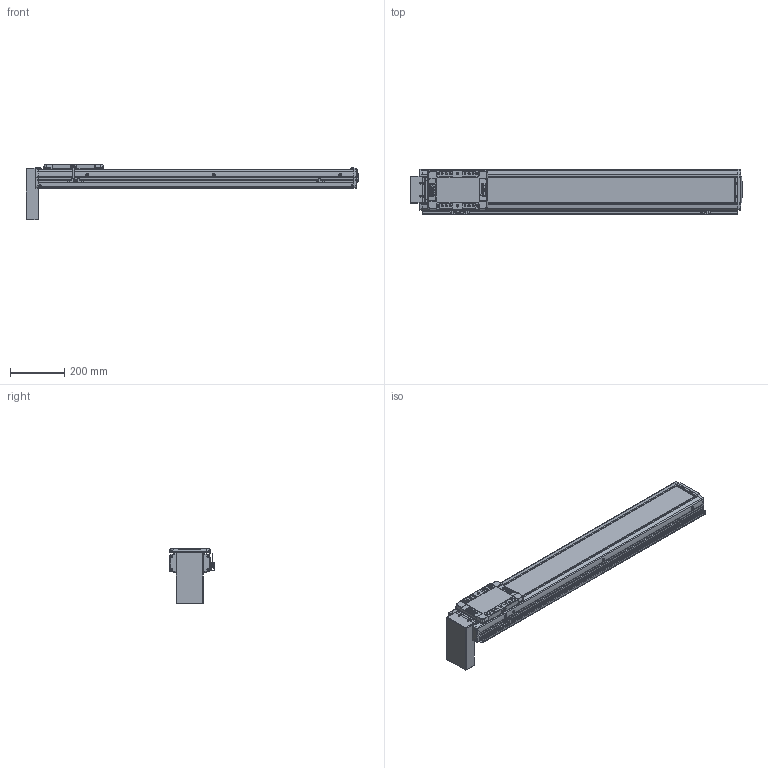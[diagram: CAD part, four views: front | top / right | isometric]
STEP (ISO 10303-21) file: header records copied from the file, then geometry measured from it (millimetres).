
FILE_DESCRIPTION(('STEP AP214'),'1');
FILE_NAME('Z:/Web/3D/SAN150/2013.04 (STP.)/SAN150ㅁㅁ-900PB+3SR.stp','2013-05-07T10:50:12',(' '),(' '),'Spatial InterOp 3D',' ',' ');
FILE_SCHEMA(('automotive_design'));
Length unit declared in the file: millimetre
Products named in the file (60): SLBL-SAN150; SLCV-SAN150; FHCS M4.0 x 8.0; BHCS M4.0 x 10.0; SFX-SAN150; RRCV-SAN150; FRBL-SAN150; Spacer; RN15; FRCV-SAN150; Screw 20; BASE-SAN150-000L ; SUS COVER; 스크루 : Round - M5.0 x 6.0; PB; 스크루 : Round - M3.0 x 6.0; M3.0 x 6.0; SRL-16x17-360L; SGD-SAN150; EE-SX674; SBK-SX674-352
Bounding box: 1220 x 166 x 205.4 mm (x, y, z)
Volume: 7302016.8 mm3; surface area: 1388045 mm2
Topology: 60 solids, 60 shells, 2744 faces, 7053 edges, 4526 vertices
Faces by surface type: plane 1422, cylinder 903, cone 302, sphere 84, bspline 21, torus 12
Entity records: 108840 total; most frequent: CARTESIAN_POINT 17481, DIRECTION 14948, ORIENTED_EDGE 13858, EDGE_CURVE 6929, AXIS2_PLACEMENT_3D 5340, VERTEX_POINT 4526, LINE 4268, VECTOR 4268
